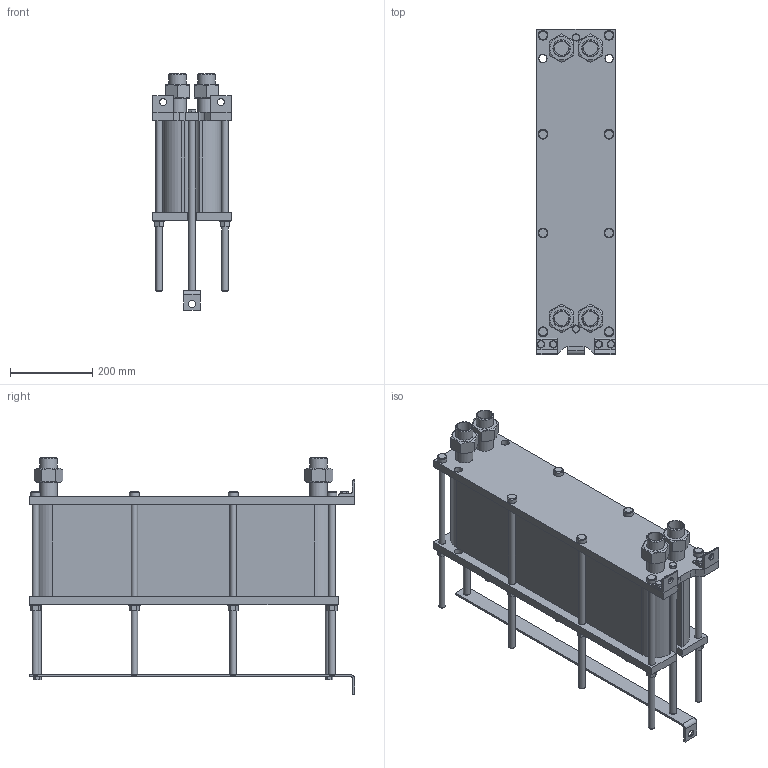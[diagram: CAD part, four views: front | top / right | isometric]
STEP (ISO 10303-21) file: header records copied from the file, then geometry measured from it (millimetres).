
FILE_DESCRIPTION(/* description */ (''),/* implementation_level */ '2;1');
FILE_NAME(/* name */ 'C:\Users\zhuro\Desktop\ENCO\TO\ЭН-008\ЭН-0,5-008-72-1.stp',/* time_stamp */ '2022-06-06T10:51:43+03:00',/* author */ ('zhuro'),/* organization */ (''),/* preprocessor_version */ 'ST-DEVELOPER v18.1',/* originating_system */ 'Autodesk Inventor 2022',/* authorisation */ '');
FILE_SCHEMA (('AUTOMOTIVE_DESIGN { 1 0 10303 214 3 1 1 }'));
Length unit declared in the file: millimetre
Products named in the file (1): ЭН-0,5-008-72-1
Bounding box: 190 x 790 x 574.6 mm (x, y, z)
Volume: 29605080.4 mm3; surface area: 1784677.5 mm2
Topology: 40 solids, 40 shells, 428 faces, 924 edges, 606 vertices
Faces by surface type: plane 273, cylinder 109, cone 40, torus 6
Full cylindrical faces by diameter (mm): 12 x6, 14 x2, 16 x20, 17 x8, 18 x19, 20 x5, 24 x8, 28 x8, 34.3 x8, 42.3 x8
Entity records: 15843 total; most frequent: CARTESIAN_POINT 5991, DIRECTION 1984, ORIENTED_EDGE 1848, EDGE_CURVE 924, AXIS2_PLACEMENT_3D 715, VERTEX_POINT 606, LINE 554, VECTOR 554
